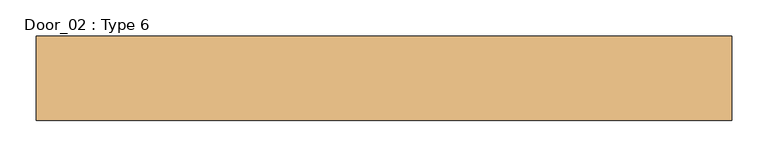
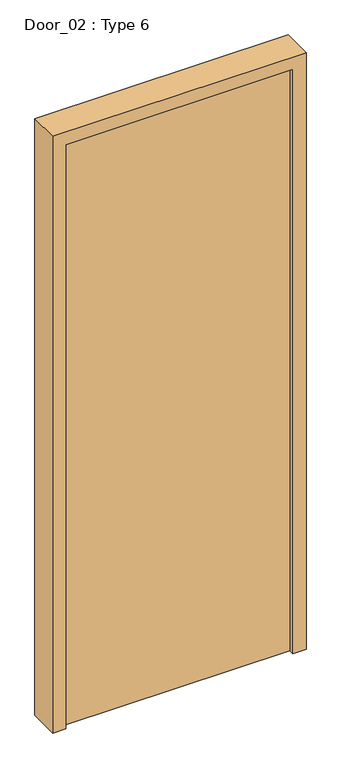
"""IFC4 building model written with IfcOpenShell, lengths in millimetres: door geometry, Door_02 : Type 6."""

from ifc_helpers import new_model, si_unit, frame, origin, origin_with_axes, place, context, project, spatial, polyline, outline, extrude, source, transform, mapped, element, save


def door_02_type_6_e402827d(model_context):
    return source(origin(), model_context, "Body", "SweptSolid", [
        extrude(outline(polyline([(430.0, 5.9955629), (430.0, -44.0044371), (-430.0, -44.0044371), (-430.0, 5.9955629), (430.0, 5.9955629)])), origin_with_axes(), (0.0, 0.0, 1.0), 2340.0),
        extrude(outline(polyline([(2390.0, -480.0), (0.0, -480.0), (0.0, -430.0), (2340.0, -430.0), (2340.0, 430.0), (0.0, 430.0), (0.0, 480.0), (2390.0, 480.0), (2390.0, -480.0)])), frame((0.0, -62.8375361, 0.0), z_axis=(0.0, 1.0, 0.0), x_axis=(0.0, 0.0, 1.0)), (0.0, 0.0, 1.0), 116.3619312),
    ])


if __name__ == "__main__":
    model = new_model("IFC4")
    model_context = context("Model", 3, world=origin())
    ifc_project = project(units=[si_unit("LENGTHUNIT", "METRE", prefix="MILLI")], contexts=[model_context])
    site = spatial("IfcSite", under=ifc_project)
    building = spatial("IfcBuilding", under=site)
    placement = place(None, origin())
    door_02_type_6_shape = door_02_type_6_e402827d(model_context)
    element("IfcDoor", 1, ObjectType="Door_02 : Type 6", at=placement, inside=building, context=model_context, shape_type="MappedRepresentation", body=[
        mapped(door_02_type_6_shape, transform((0.0, 0.0, 0.0), x_axis=(1.0, 0.0, 0.0), y_axis=(0.0, 1.0, 0.0), z_axis=(0.0, 0.0, 1.0))),
    ])
    save(model, "model.ifc")
